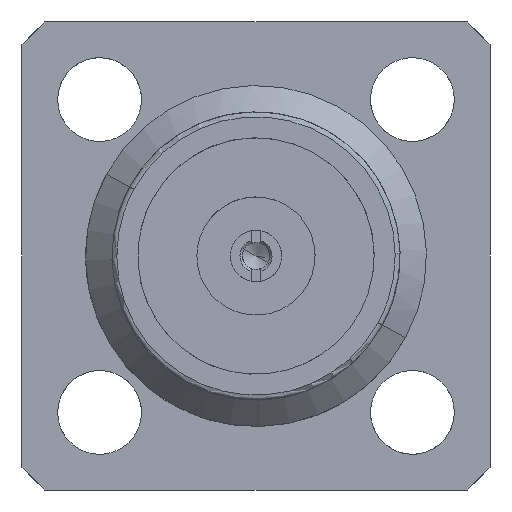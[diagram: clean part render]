
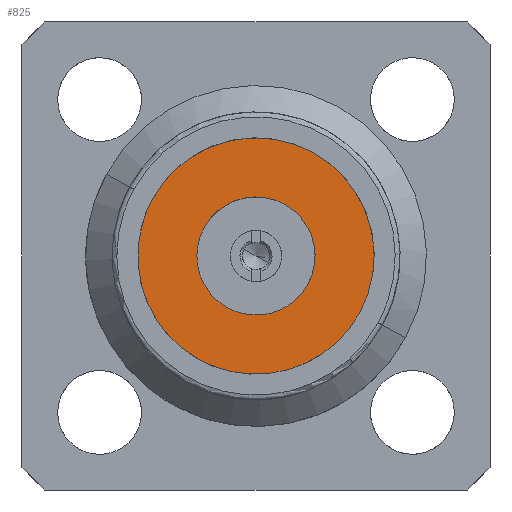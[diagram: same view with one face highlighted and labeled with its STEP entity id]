
A CAD part, left-side view. The second image highlights one B-rep face of the part: STEP entity #825.
In plain terms, the highlighted planar face has unit normal (-1, 0, 0).
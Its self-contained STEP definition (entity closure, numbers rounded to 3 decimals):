
#711=CARTESIAN_POINT('Vertex',(3.,1.053,0.575)) ;
#715=CARTESIAN_POINT('Control Point',(3.,-1.053,-0.575)) ;
#716=CARTESIAN_POINT('Control Point',(3.,-0.872,-0.906)) ;
#717=CARTESIAN_POINT('Control Point',(3.,-0.562,-1.166)) ;
#718=CARTESIAN_POINT('Control Point',(3.,-0.157,-1.285)) ;
#719=CARTESIAN_POINT('Control Point',(3.,0.646,-1.183)) ;
#720=CARTESIAN_POINT('Control Point',(3.,1.166,-0.562)) ;
#721=CARTESIAN_POINT('Control Point',(3.,1.285,-0.157)) ;
#722=CARTESIAN_POINT('Control Point',(3.,1.234,0.244)) ;
#723=CARTESIAN_POINT('Control Point',(3.,1.053,0.575)) ;
#724=CARTESIAN_POINT('Vertex',(3.,-1.053,-0.575)) ;
#744=CARTESIAN_POINT('Axis2P3D Location',(3.,0.,0.)) ;
#756=CARTESIAN_POINT('Axis2P3D Location',(3.,-1.2,0.)) ;
#762=CARTESIAN_POINT('Control Point',(3.,-2.106,-1.151)) ;
#763=CARTESIAN_POINT('Control Point',(3.,-1.997,-1.35)) ;
#764=CARTESIAN_POINT('Control Point',(3.,-1.864,-1.537)) ;
#765=CARTESIAN_POINT('Control Point',(3.,-1.71,-1.707)) ;
#766=CARTESIAN_POINT('Control Point',(3.,-1.363,-2.008)) ;
#767=CARTESIAN_POINT('Control Point',(3.,-0.956,-2.219)) ;
#768=CARTESIAN_POINT('Control Point',(3.,-0.741,-2.3)) ;
#769=CARTESIAN_POINT('Control Point',(3.,-0.296,-2.409)) ;
#770=CARTESIAN_POINT('Control Point',(3.,0.163,-2.411)) ;
#771=CARTESIAN_POINT('Control Point',(3.,0.391,-2.384)) ;
#772=CARTESIAN_POINT('Control Point',(3.,0.837,-2.278)) ;
#773=CARTESIAN_POINT('Control Point',(3.,1.246,-2.07)) ;
#774=CARTESIAN_POINT('Control Point',(3.,1.437,-1.942)) ;
#775=CARTESIAN_POINT('Control Point',(3.,1.785,-1.644)) ;
#776=CARTESIAN_POINT('Control Point',(3.,2.054,-1.273)) ;
#777=CARTESIAN_POINT('Control Point',(3.,2.166,-1.072)) ;
#778=CARTESIAN_POINT('Control Point',(3.,2.339,-0.647)) ;
#779=CARTESIAN_POINT('Control Point',(3.,2.409,-0.194)) ;
#780=CARTESIAN_POINT('Control Point',(3.,2.416,0.036)) ;
#781=CARTESIAN_POINT('Control Point',(3.,2.384,0.407)) ;
#782=CARTESIAN_POINT('Control Point',(3.,2.282,0.763)) ;
#783=CARTESIAN_POINT('Control Point',(3.,2.233,0.897)) ;
#784=CARTESIAN_POINT('Control Point',(3.,2.174,1.026)) ;
#785=CARTESIAN_POINT('Control Point',(3.,2.106,1.151)) ;
#786=CARTESIAN_POINT('Vertex',(3.,-2.106,-1.151)) ;
#788=CARTESIAN_POINT('Vertex',(3.,2.106,1.151)) ;
#792=CARTESIAN_POINT('Control Point',(3.,2.106,1.151)) ;
#793=CARTESIAN_POINT('Control Point',(3.,1.997,1.35)) ;
#794=CARTESIAN_POINT('Control Point',(3.,1.864,1.537)) ;
#795=CARTESIAN_POINT('Control Point',(3.,1.71,1.707)) ;
#796=CARTESIAN_POINT('Control Point',(3.,1.363,2.008)) ;
#797=CARTESIAN_POINT('Control Point',(3.,0.956,2.219)) ;
#798=CARTESIAN_POINT('Control Point',(3.,0.741,2.3)) ;
#799=CARTESIAN_POINT('Control Point',(3.,0.296,2.409)) ;
#800=CARTESIAN_POINT('Control Point',(3.,-0.163,2.411)) ;
#801=CARTESIAN_POINT('Control Point',(3.,-0.391,2.384)) ;
#802=CARTESIAN_POINT('Control Point',(3.,-0.837,2.278)) ;
#803=CARTESIAN_POINT('Control Point',(3.,-1.246,2.07)) ;
#804=CARTESIAN_POINT('Control Point',(3.,-1.437,1.942)) ;
#805=CARTESIAN_POINT('Control Point',(3.,-1.785,1.644)) ;
#806=CARTESIAN_POINT('Control Point',(3.,-2.054,1.273)) ;
#807=CARTESIAN_POINT('Control Point',(3.,-2.166,1.072)) ;
#808=CARTESIAN_POINT('Control Point',(3.,-2.339,0.647)) ;
#809=CARTESIAN_POINT('Control Point',(3.,-2.409,0.194)) ;
#810=CARTESIAN_POINT('Control Point',(3.,-2.416,-0.036)) ;
#811=CARTESIAN_POINT('Control Point',(3.,-2.384,-0.407)) ;
#812=CARTESIAN_POINT('Control Point',(3.,-2.282,-0.763)) ;
#813=CARTESIAN_POINT('Control Point',(3.,-2.233,-0.897)) ;
#814=CARTESIAN_POINT('Control Point',(3.,-2.174,-1.026)) ;
#815=CARTESIAN_POINT('Control Point',(3.,-2.106,-1.151)) ;
#745=DIRECTION('Axis2P3D Direction',(1.,0.,0.)) ;
#757=DIRECTION('Axis2P3D Direction',(1.,0.,0.)) ;
#758=DIRECTION('Axis2P3D XDirection',(0.,1.,0.)) ;
#746=AXIS2_PLACEMENT_3D('Circle Axis2P3D',#744,#745,$) ;
#759=AXIS2_PLACEMENT_3D('Plane Axis2P3D',#756,#757,#758) ;
#818=ORIENTED_EDGE('',*,*,#790,.F.) ;
#819=ORIENTED_EDGE('',*,*,#816,.F.) ;
#822=ORIENTED_EDGE('',*,*,#748,.T.) ;
#823=ORIENTED_EDGE('',*,*,#726,.T.) ;
#824=FACE_BOUND('',#821,.T.) ;
#825=ADVANCED_FACE('',(#820,#824),#760,.F.) ;
#714=B_SPLINE_CURVE_WITH_KNOTS('',5,(#715,#716,#717,#718,#719,#720,#721,#722,#723),.UNSPECIFIED.,.F.,.U.,(6,3,6),(-1.885,0.,1.885),.UNSPECIFIED.) ;
#761=B_SPLINE_CURVE_WITH_KNOTS('',5,(#762,#763,#764,#765,#766,#767,#768,#769,#770,#771,#772,#773,#774,#775,#776,#777,#778,#779,#780,#781,#782,#783,#784,#785),.UNSPECIFIED.,.F.,.U.,(6,3,3,3,3,3,3,6),(0.,1.61,3.22,4.83,6.44,8.05,9.66,10.663),.UNSPECIFIED.) ;
#791=B_SPLINE_CURVE_WITH_KNOTS('',5,(#792,#793,#794,#795,#796,#797,#798,#799,#800,#801,#802,#803,#804,#805,#806,#807,#808,#809,#810,#811,#812,#813,#814,#815),.UNSPECIFIED.,.F.,.U.,(6,3,3,3,3,3,3,6),(0.,1.61,3.22,4.83,6.44,8.05,9.66,10.663),.UNSPECIFIED.) ;
#747=CIRCLE('generated circle',#746,1.2) ;
#726=EDGE_CURVE('',#725,#712,#714,.T.) ;
#748=EDGE_CURVE('',#712,#725,#747,.T.) ;
#790=EDGE_CURVE('',#787,#789,#761,.T.) ;
#816=EDGE_CURVE('',#789,#787,#791,.T.) ;
#817=EDGE_LOOP('',(#818,#819)) ;
#821=EDGE_LOOP('',(#822,#823)) ;
#820=FACE_OUTER_BOUND('',#817,.T.) ;
#760=PLANE('Plane',#759) ;
#712=VERTEX_POINT('',#711) ;
#725=VERTEX_POINT('',#724) ;
#787=VERTEX_POINT('',#786) ;
#789=VERTEX_POINT('',#788) ;
